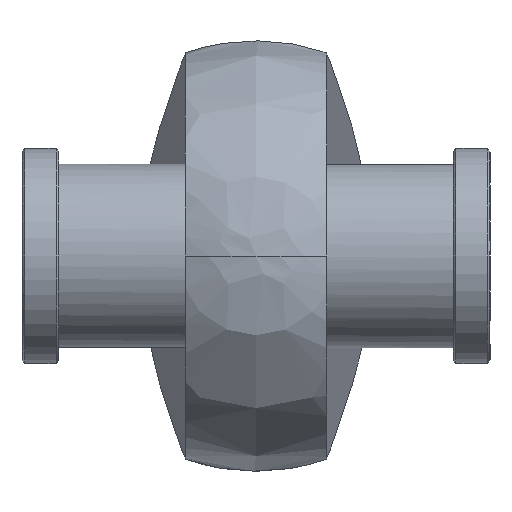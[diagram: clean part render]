
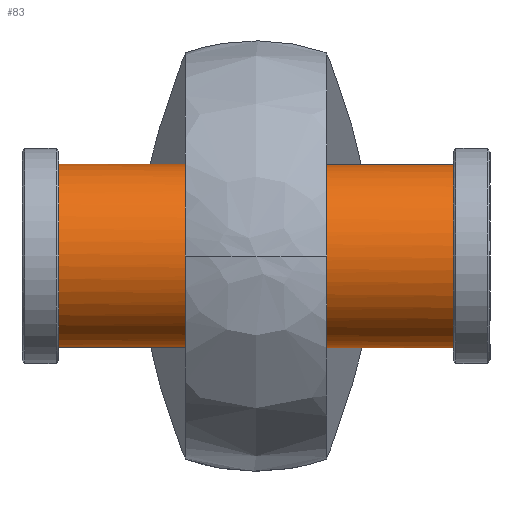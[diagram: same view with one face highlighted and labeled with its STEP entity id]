
A CAD part, left-side view. The second image highlights one B-rep face of the part: STEP entity #83.
In plain terms, the highlighted cylindrical face has radius 17.5 mm (diameter 35 mm), a full revolution.
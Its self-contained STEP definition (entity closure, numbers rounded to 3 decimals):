
#83=ADVANCED_FACE('',(#157),#1214,.T.);
#157=FACE_OUTER_BOUND('',#238,.T.);
#238=EDGE_LOOP('',(#506,#507,#508,#509));
#506=ORIENTED_EDGE('',*,*,#774,.T.);
#507=ORIENTED_EDGE('',*,*,#776,.T.);
#508=ORIENTED_EDGE('',*,*,#775,.T.);
#509=ORIENTED_EDGE('',*,*,#776,.F.);
#774=EDGE_CURVE('',#1128,#1128,#983,.T.);
#775=EDGE_CURVE('',#1129,#1129,#984,.T.);
#776=EDGE_CURVE('',#1128,#1129,#897,.T.);
#897=B_SPLINE_CURVE_WITH_KNOTS('',1,(#2248,#2249),.UNSPECIFIED.,.F.,.F.,
(2,2),(7.638,82.816),.UNSPECIFIED.);
#983=(
BOUNDED_CURVE()
B_SPLINE_CURVE(2,(#2230,#2231,#2232,#2233,#2234,#2235,#2236,#2237,#2238),
 .UNSPECIFIED.,.T.,.F.)
B_SPLINE_CURVE_WITH_KNOTS((3,2,2,2,3),(0.,27.489,54.978,
82.467,109.956),.UNSPECIFIED.)
CURVE()
GEOMETRIC_REPRESENTATION_ITEM()
RATIONAL_B_SPLINE_CURVE((1.,0.707,1.,0.707,1.,0.707,
1.,0.707,1.))
REPRESENTATION_ITEM('')
);
#984=(
BOUNDED_CURVE()
B_SPLINE_CURVE(2,(#2239,#2240,#2241,#2242,#2243,#2244,#2245,#2246,#2247),
 .UNSPECIFIED.,.T.,.F.)
B_SPLINE_CURVE_WITH_KNOTS((3,2,2,2,3),(0.,27.489,54.978,
82.467,109.956),.UNSPECIFIED.)
CURVE()
GEOMETRIC_REPRESENTATION_ITEM()
RATIONAL_B_SPLINE_CURVE((1.,0.707,1.,0.707,1.,0.707,
1.,0.707,1.))
REPRESENTATION_ITEM('')
);
#1128=VERTEX_POINT('',#2182);
#1129=VERTEX_POINT('',#2183);
#1214=CYLINDRICAL_SURFACE('',#1366,17.5);
#1366=AXIS2_PLACEMENT_3D('',#2172,#1412,$);
#1412=DIRECTION('',(0.,-1.,0.));
#2172=CARTESIAN_POINT('',(0.,0.,0.));
#2182=CARTESIAN_POINT('',(17.5,37.589,0.));
#2183=CARTESIAN_POINT('',(17.5,-37.589,0.));
#2230=CARTESIAN_POINT('',(17.5,37.589,0.));
#2231=CARTESIAN_POINT('',(17.5,37.589,17.5));
#2232=CARTESIAN_POINT('',(0.,37.589,17.5));
#2233=CARTESIAN_POINT('',(-17.5,37.589,17.5));
#2234=CARTESIAN_POINT('',(-17.5,37.589,0.));
#2235=CARTESIAN_POINT('',(-17.5,37.589,-17.5));
#2236=CARTESIAN_POINT('',(0.,37.589,-17.5));
#2237=CARTESIAN_POINT('',(17.5,37.589,-17.5));
#2238=CARTESIAN_POINT('',(17.5,37.589,0.));
#2239=CARTESIAN_POINT('',(17.5,-37.589,0.));
#2240=CARTESIAN_POINT('',(17.5,-37.589,-17.5));
#2241=CARTESIAN_POINT('',(0.,-37.589,-17.5));
#2242=CARTESIAN_POINT('',(-17.5,-37.589,-17.5));
#2243=CARTESIAN_POINT('',(-17.5,-37.589,0.));
#2244=CARTESIAN_POINT('',(-17.5,-37.589,17.5));
#2245=CARTESIAN_POINT('',(0.,-37.589,17.5));
#2246=CARTESIAN_POINT('',(17.5,-37.589,17.5));
#2247=CARTESIAN_POINT('',(17.5,-37.589,0.));
#2248=CARTESIAN_POINT('',(17.5,37.589,0.));
#2249=CARTESIAN_POINT('',(17.5,-37.589,0.));
